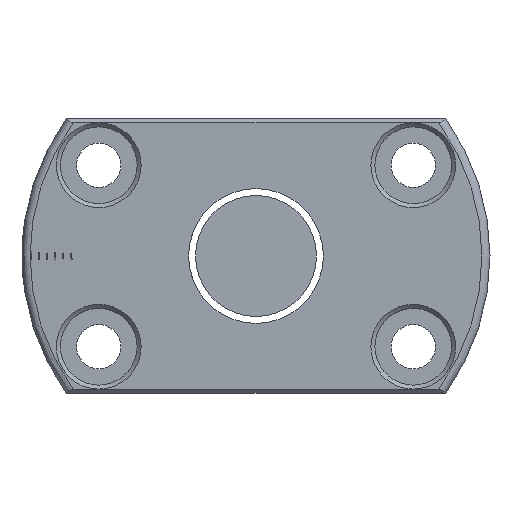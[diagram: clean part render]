
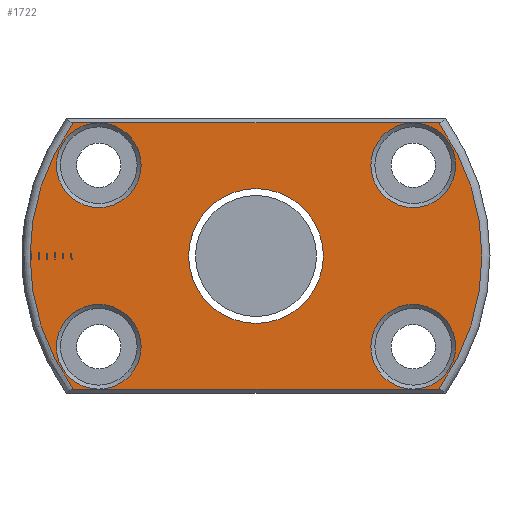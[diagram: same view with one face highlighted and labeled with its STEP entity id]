
A CAD part, left-side view. The second image highlights one B-rep face of the part: STEP entity #1722.
In plain terms, the highlighted planar face has unit normal (-1, 0, 0).
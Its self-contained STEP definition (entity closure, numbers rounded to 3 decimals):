
#8 = CARTESIAN_POINT ( 'NONE',  ( -57., 0., 0. ) ) ;
#40 = DIRECTION ( 'NONE',  ( 0., 1., 0. ) ) ;
#55 = VECTOR ( 'NONE', #2720, 1000. ) ;
#89 = ORIENTED_EDGE ( 'NONE', *, *, #540, .T. ) ;
#140 = DIRECTION ( 'NONE',  ( -1., 0., 0. ) ) ;
#185 = AXIS2_PLACEMENT_3D ( 'NONE', #215, #1444, #1206 ) ;
#189 = CIRCLE ( 'NONE', #461, 5.25 ) ;
#192 = AXIS2_PLACEMENT_3D ( 'NONE', #792, #2551, #296 ) ;
#215 = CARTESIAN_POINT ( 'NONE',  ( -57., 0., 0. ) ) ;
#220 = CARTESIAN_POINT ( 'NONE',  ( -57., -22.249, -16.5 ) ) ;
#232 = DIRECTION ( 'NONE',  ( 0., 1., 0. ) ) ;
#276 = LINE ( 'NONE', #1525, #1790 ) ;
#278 = CARTESIAN_POINT ( 'NONE',  ( -57., 19.486, -11.25 ) ) ;
#296 = DIRECTION ( 'NONE',  ( 0., 0., 1. ) ) ;
#337 = EDGE_CURVE ( 'NONE', #1337, #2852, #1596, .T. ) ;
#340 = VERTEX_POINT ( 'NONE', #1221 ) ;
#342 = AXIS2_PLACEMENT_3D ( 'NONE', #1710, #1754, #976 ) ;
#397 = CARTESIAN_POINT ( 'NONE',  ( -57., 29., 0. ) ) ;
#413 = CARTESIAN_POINT ( 'NONE',  ( -57., -22.249, -16.5 ) ) ;
#437 = EDGE_CURVE ( 'NONE', #1979, #1337, #1320, .T. ) ;
#438 = LINE ( 'NONE', #220, #55 ) ;
#461 = AXIS2_PLACEMENT_3D ( 'NONE', #2772, #818, #526 ) ;
#526 = DIRECTION ( 'NONE',  ( 0., 0., 1. ) ) ;
#540 = EDGE_CURVE ( 'NONE', #2321, #2321, #189, .T. ) ;
#586 = ORIENTED_EDGE ( 'NONE', *, *, #947, .T. ) ;
#588 = CARTESIAN_POINT ( 'NONE',  ( -57., 22.622, 16.5 ) ) ;
#608 = ORIENTED_EDGE ( 'NONE', *, *, #2618, .T. ) ;
#629 = ORIENTED_EDGE ( 'NONE', *, *, #2974, .T. ) ;
#651 = CARTESIAN_POINT ( 'NONE',  ( -57., -19.486, 16.5 ) ) ;
#679 = DIRECTION ( 'NONE',  ( 0., 0., 1. ) ) ;
#733 = ORIENTED_EDGE ( 'NONE', *, *, #2627, .T. ) ;
#792 = CARTESIAN_POINT ( 'NONE',  ( -57., 19.486, 11.25 ) ) ;
#818 = DIRECTION ( 'NONE',  ( 1., 0., 0. ) ) ;
#887 = FACE_BOUND ( 'NONE', #1309, .T. ) ;
#904 = EDGE_CURVE ( 'NONE', #3086, #3086, #3239, .T. ) ;
#936 = AXIS2_PLACEMENT_3D ( 'NONE', #278, #3025, #3043 ) ;
#947 = EDGE_CURVE ( 'NONE', #3086, #2164, #1240, .T. ) ;
#976 = DIRECTION ( 'NONE',  ( 0., 0., 1. ) ) ;
#984 = VECTOR ( 'NONE', #2272, 1000. ) ;
#1045 = CARTESIAN_POINT ( 'NONE',  ( -57., 22.249, 16.5 ) ) ;
#1053 = CARTESIAN_POINT ( 'NONE',  ( -57., -22.622, 16.5 ) ) ;
#1113 = EDGE_LOOP ( 'NONE', ( #608, #629, #89, #2091, #3133, #1126, #3088, #1319, #1281, #733, #1990, #586 ) ) ;
#1126 = ORIENTED_EDGE ( 'NONE', *, *, #437, .T. ) ;
#1156 = CARTESIAN_POINT ( 'NONE',  ( -57., 0., -8.35 ) ) ;
#1186 = EDGE_CURVE ( 'NONE', #2321, #1979, #1724, .T. ) ;
#1200 = CARTESIAN_POINT ( 'NONE',  ( -57., 19.486, 16.5 ) ) ;
#1204 = LINE ( 'NONE', #413, #3074 ) ;
#1206 = DIRECTION ( 'NONE',  ( 0., 0., 1. ) ) ;
#1221 = CARTESIAN_POINT ( 'NONE',  ( -57., 19.486, -16.5 ) ) ;
#1227 = DIRECTION ( 'NONE',  ( -1., 0., 0. ) ) ;
#1240 = LINE ( 'NONE', #1280, #984 ) ;
#1280 = CARTESIAN_POINT ( 'NONE',  ( -57., -22.249, -16.5 ) ) ;
#1281 = ORIENTED_EDGE ( 'NONE', *, *, #2089, .T. ) ;
#1309 = EDGE_LOOP ( 'NONE', ( #1532 ) ) ;
#1312 = DIRECTION ( 'NONE',  ( 0., 0., -1. ) ) ;
#1319 = ORIENTED_EDGE ( 'NONE', *, *, #1701, .T. ) ;
#1320 = LINE ( 'NONE', #1045, #1854 ) ;
#1337 = VERTEX_POINT ( 'NONE', #588 ) ;
#1444 = DIRECTION ( 'NONE',  ( -1., 0., 0. ) ) ;
#1525 = CARTESIAN_POINT ( 'NONE',  ( -57., 22.249, 16.5 ) ) ;
#1532 = ORIENTED_EDGE ( 'NONE', *, *, #3003, .T. ) ;
#1571 = DIRECTION ( 'NONE',  ( 1., 0., 0. ) ) ;
#1596 = CIRCLE ( 'NONE', #185, 28. ) ;
#1701 = EDGE_CURVE ( 'NONE', #2852, #340, #1204, .T. ) ;
#1710 = CARTESIAN_POINT ( 'NONE',  ( -57., -19.486, -11.25 ) ) ;
#1722 = ADVANCED_FACE ( 'NONE', ( #2923, #887 ), #2867, .T. ) ;
#1724 = LINE ( 'NONE', #2742, #1914 ) ;
#1754 = DIRECTION ( 'NONE',  ( 1., 0., 0. ) ) ;
#1760 = CIRCLE ( 'NONE', #936, 5.25 ) ;
#1790 = VECTOR ( 'NONE', #40, 1000. ) ;
#1854 = VECTOR ( 'NONE', #2588, 1000. ) ;
#1914 = VECTOR ( 'NONE', #232, 1000. ) ;
#1936 = CARTESIAN_POINT ( 'NONE',  ( -57., 0., 0. ) ) ;
#1979 = VERTEX_POINT ( 'NONE', #1200 ) ;
#1990 = ORIENTED_EDGE ( 'NONE', *, *, #904, .T. ) ;
#1991 = CIRCLE ( 'NONE', #2483, 8.35 ) ;
#2089 = EDGE_CURVE ( 'NONE', #340, #340, #1760, .T. ) ;
#2091 = ORIENTED_EDGE ( 'NONE', *, *, #1186, .T. ) ;
#2128 = VERTEX_POINT ( 'NONE', #1053 ) ;
#2164 = VERTEX_POINT ( 'NONE', #3059 ) ;
#2186 = EDGE_CURVE ( 'NONE', #1979, #1979, #2603, .T. ) ;
#2191 = DIRECTION ( 'NONE',  ( 0., 0., 1. ) ) ;
#2272 = DIRECTION ( 'NONE',  ( 0., -1., 0. ) ) ;
#2307 = CARTESIAN_POINT ( 'NONE',  ( -57., -19.486, -16.5 ) ) ;
#2321 = VERTEX_POINT ( 'NONE', #651 ) ;
#2483 = AXIS2_PLACEMENT_3D ( 'NONE', #8, #1571, #1312 ) ;
#2551 = DIRECTION ( 'NONE',  ( 1., 0., 0. ) ) ;
#2588 = DIRECTION ( 'NONE',  ( 0., 1., 0. ) ) ;
#2603 = CIRCLE ( 'NONE', #192, 5.25 ) ;
#2618 = EDGE_CURVE ( 'NONE', #2164, #2128, #2957, .T. ) ;
#2627 = EDGE_CURVE ( 'NONE', #340, #3086, #438, .T. ) ;
#2651 = VERTEX_POINT ( 'NONE', #1156 ) ;
#2681 = DIRECTION ( 'NONE',  ( 0., -1., 0. ) ) ;
#2720 = DIRECTION ( 'NONE',  ( 0., -1., 0. ) ) ;
#2734 = CARTESIAN_POINT ( 'NONE',  ( -57., 22.622, -16.5 ) ) ;
#2742 = CARTESIAN_POINT ( 'NONE',  ( -57., 22.249, 16.5 ) ) ;
#2772 = CARTESIAN_POINT ( 'NONE',  ( -57., -19.486, 11.25 ) ) ;
#2852 = VERTEX_POINT ( 'NONE', #2734 ) ;
#2867 = PLANE ( 'NONE',  #2920 ) ;
#2920 = AXIS2_PLACEMENT_3D ( 'NONE', #397, #140, #679 ) ;
#2923 = FACE_OUTER_BOUND ( 'NONE', #1113, .T. ) ;
#2957 = CIRCLE ( 'NONE', #3002, 28. ) ;
#2974 = EDGE_CURVE ( 'NONE', #2128, #2321, #276, .T. ) ;
#3002 = AXIS2_PLACEMENT_3D ( 'NONE', #1936, #1227, #2191 ) ;
#3003 = EDGE_CURVE ( 'NONE', #2651, #2651, #1991, .T. ) ;
#3025 = DIRECTION ( 'NONE',  ( 1., 0., 0. ) ) ;
#3043 = DIRECTION ( 'NONE',  ( 0., 0., 1. ) ) ;
#3059 = CARTESIAN_POINT ( 'NONE',  ( -57., -22.622, -16.5 ) ) ;
#3074 = VECTOR ( 'NONE', #2681, 1000. ) ;
#3086 = VERTEX_POINT ( 'NONE', #2307 ) ;
#3088 = ORIENTED_EDGE ( 'NONE', *, *, #337, .T. ) ;
#3133 = ORIENTED_EDGE ( 'NONE', *, *, #2186, .T. ) ;
#3239 = CIRCLE ( 'NONE', #342, 5.25 ) ;
